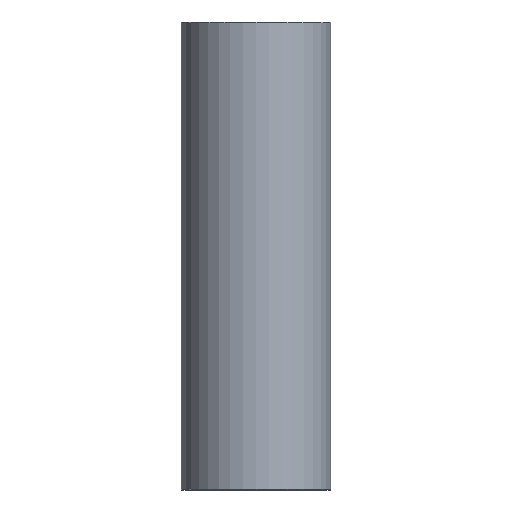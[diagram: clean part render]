
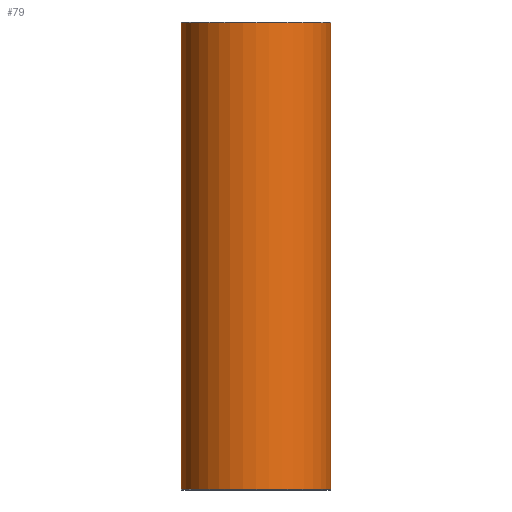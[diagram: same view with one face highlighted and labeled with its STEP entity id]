
A CAD part, front view. The second image highlights one B-rep face of the part: STEP entity #79.
In plain terms, the highlighted cylindrical face has radius 24 mm (diameter 48 mm), a full revolution.
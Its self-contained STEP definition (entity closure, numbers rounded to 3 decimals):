
#79=ADVANCED_FACE('',(#96,#97),#98,.T.);
#96=FACE_OUTER_BOUND('',#120,.T.);
#97=FACE_OUTER_BOUND('',#121,.T.);
#98=CYLINDRICAL_SURFACE('',#122,24.0);
#120=EDGE_LOOP('',(#152));
#121=EDGE_LOOP('',(#153));
#122=AXIS2_PLACEMENT_3D('',#154,#155,#156);
#152=ORIENTED_EDGE('',*,*,#178,.T.);
#153=ORIENTED_EDGE('',*,*,#177,.T.);
#154=CARTESIAN_POINT('',(0.,0.0,150.0));
#155=DIRECTION('',(0.0,0.0,-1.0));
#156=DIRECTION('',(-1.0,0.0,0.0));
#177=EDGE_CURVE('',#190,#190,#191,.T.);
#178=EDGE_CURVE('',#192,#192,#193,.F.);
#190=VERTEX_POINT('',#206);
#191=CIRCLE('',#207,24.0);
#192=VERTEX_POINT('',#208);
#193=CIRCLE('',#209,24.0);
#206=CARTESIAN_POINT('',(24.0,0.0,0.2));
#207=AXIS2_PLACEMENT_3D('',#227,#228,#229);
#208=CARTESIAN_POINT('',(24.0,0.,149.8));
#209=AXIS2_PLACEMENT_3D('',#230,#231,#232);
#227=CARTESIAN_POINT('',(0.,0.0,0.2));
#228=DIRECTION('',(0.0,0.0,1.0));
#229=DIRECTION('',(1.0,0.0,0.0));
#230=CARTESIAN_POINT('',(0.,0.0,149.8));
#231=DIRECTION('',(0.0,0.0,1.0));
#232=DIRECTION('',(1.0,0.0,0.0));
